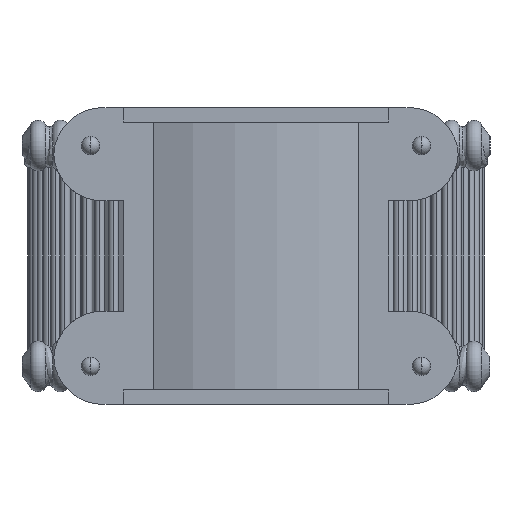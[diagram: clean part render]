
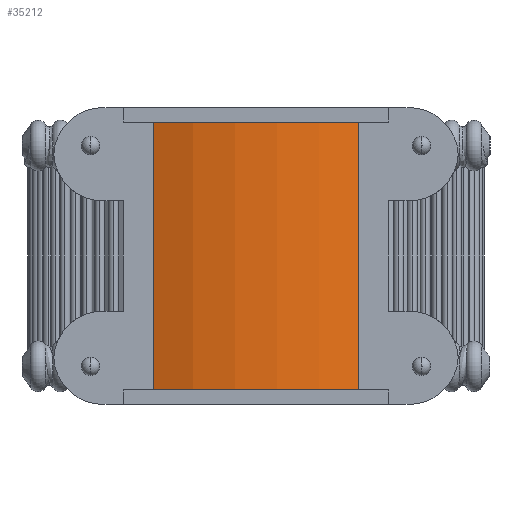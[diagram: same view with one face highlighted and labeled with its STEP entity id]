
A CAD part, front view. The second image highlights one B-rep face of the part: STEP entity #35212.
In plain terms, the highlighted cylindrical face has radius 17.615 mm (diameter 35.23 mm), a partial arc.
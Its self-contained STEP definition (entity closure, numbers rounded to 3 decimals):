
#574 = VECTOR ( 'NONE', #38640, 1000. ) ;
#941 = EDGE_CURVE ( 'NONE', #3316, #2310, #16067, .T. ) ;
#2076 = CARTESIAN_POINT ( 'NONE',  ( 7.102, 0., -9.25 ) ) ;
#2310 = VERTEX_POINT ( 'NONE', #2076 ) ;
#3219 = CARTESIAN_POINT ( 'NONE',  ( -7.102, 0., -9.25 ) ) ;
#3288 = AXIS2_PLACEMENT_3D ( 'NONE', #18982, #39374, #29056 ) ;
#3316 = VERTEX_POINT ( 'NONE', #21747 ) ;
#3639 = VERTEX_POINT ( 'NONE', #3219 ) ;
#5629 = ORIENTED_EDGE ( 'NONE', *, *, #941, .F. ) ;
#8154 = EDGE_LOOP ( 'NONE', ( #37373, #37338, #5629, #27962 ) ) ;
#10069 = DIRECTION ( 'NONE',  ( 0., 0., -1. ) ) ;
#12821 = VECTOR ( 'NONE', #10069, 1000. ) ;
#13314 = DIRECTION ( 'NONE',  ( -1., 0., 0. ) ) ;
#15426 = DIRECTION ( 'NONE',  ( 1., 0., 0. ) ) ;
#15570 = CYLINDRICAL_SURFACE ( 'NONE', #30045, 17.615 ) ;
#16067 = LINE ( 'NONE', #31763, #574 ) ;
#16565 = EDGE_CURVE ( 'NONE', #3316, #27551, #22950, .T. ) ;
#17701 = FACE_OUTER_BOUND ( 'NONE', #8154, .T. ) ;
#18982 = CARTESIAN_POINT ( 'NONE',  ( 0., 16.12, 9.25 ) ) ;
#18993 = DIRECTION ( 'NONE',  ( 0., 0., 1. ) ) ;
#19996 = CARTESIAN_POINT ( 'NONE',  ( -7.102, 0., 9.25 ) ) ;
#21747 = CARTESIAN_POINT ( 'NONE',  ( 7.102, 0., 9.25 ) ) ;
#21854 = LINE ( 'NONE', #44160, #12821 ) ;
#22950 = CIRCLE ( 'NONE', #3288, 17.615 ) ;
#24128 = EDGE_CURVE ( 'NONE', #27551, #3639, #21854, .T. ) ;
#26148 = AXIS2_PLACEMENT_3D ( 'NONE', #29202, #18993, #15426 ) ;
#27551 = VERTEX_POINT ( 'NONE', #19996 ) ;
#27962 = ORIENTED_EDGE ( 'NONE', *, *, #16565, .T. ) ;
#29056 = DIRECTION ( 'NONE',  ( -1., 0., 0. ) ) ;
#29202 = CARTESIAN_POINT ( 'NONE',  ( 0., 16.12, -9.25 ) ) ;
#30045 = AXIS2_PLACEMENT_3D ( 'NONE', #43994, #40524, #13314 ) ;
#31763 = CARTESIAN_POINT ( 'NONE',  ( 7.102, 0., 10.25 ) ) ;
#31789 = EDGE_CURVE ( 'NONE', #3639, #2310, #41463, .T. ) ;
#35212 = ADVANCED_FACE ( 'NONE', ( #17701 ), #15570, .T. ) ;
#37338 = ORIENTED_EDGE ( 'NONE', *, *, #31789, .T. ) ;
#37373 = ORIENTED_EDGE ( 'NONE', *, *, #24128, .T. ) ;
#38640 = DIRECTION ( 'NONE',  ( 0., 0., -1. ) ) ;
#39374 = DIRECTION ( 'NONE',  ( 0., 0., -1. ) ) ;
#40524 = DIRECTION ( 'NONE',  ( 0., 0., -1. ) ) ;
#41463 = CIRCLE ( 'NONE', #26148, 17.615 ) ;
#43994 = CARTESIAN_POINT ( 'NONE',  ( 0., 16.12, 10.25 ) ) ;
#44160 = CARTESIAN_POINT ( 'NONE',  ( -7.102, 0., 10.25 ) ) ;
